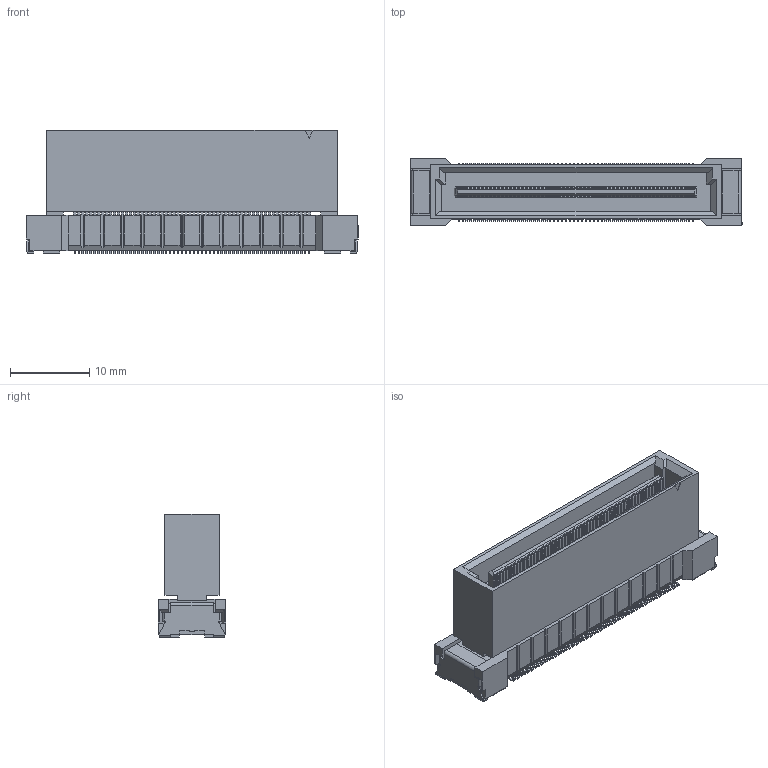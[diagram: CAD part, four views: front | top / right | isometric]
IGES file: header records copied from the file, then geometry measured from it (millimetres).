
Start section: Elysium IGES Interface
Global section: file name: 146HG:\その他\DT関連\【59期以前】\DT_CADﾃﾞｰﾀ\DT_3DCAD\DT0□\FS-10\60-36-0113_WEBサイトアップロード用\ボス無し_DT00-XXXFS-10\P3E104_DT00-120FS-10-T.igs; native system: Creo Elements/Direct Modeling 20.4A  18-Oct-2021; preprocessor: Creo Element/Direct IGES_3D V2.2; author: Unknown; organization: Unknown; date: 20220225.173608; units: millimetre
Bounding box: 41.8 x 8.5 x 15.5 mm (x, y, z)
Volume: 3330.9 mm3; surface area: 3257.8 mm2
Topology: 1 solids, 1 shells, 3349 faces, 9405 edges, 6178 vertices
Faces by surface type: bspline 3349
